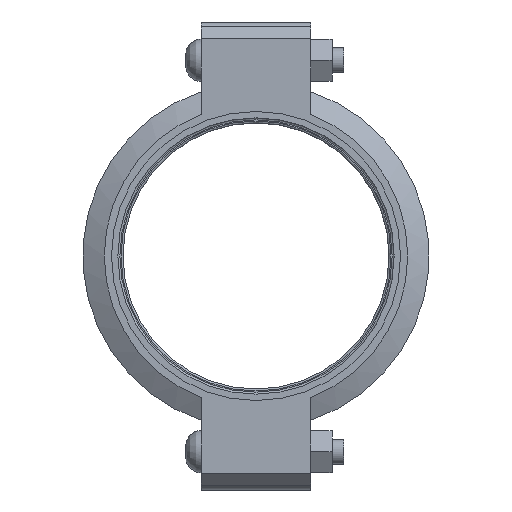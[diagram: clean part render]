
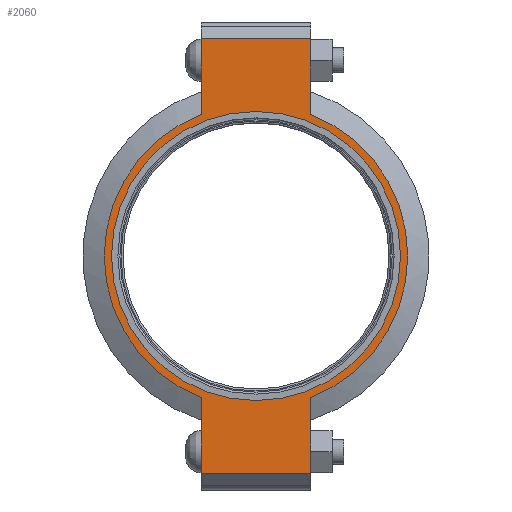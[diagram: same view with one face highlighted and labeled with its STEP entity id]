
A CAD part, left-side view. The second image highlights one B-rep face of the part: STEP entity #2060.
In plain terms, the highlighted planar face has unit normal (-1, 0, 0) as drawn and (0, 0, 1) by its records, which use the part's own axes.
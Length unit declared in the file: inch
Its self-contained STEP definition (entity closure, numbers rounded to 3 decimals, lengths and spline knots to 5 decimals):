
#166=LINE('',#3677,#265);
#174=LINE('',#3713,#273);
#181=LINE('',#3734,#280);
#190=LINE('',#3766,#289);
#191=LINE('',#3770,#290);
#192=LINE('',#3772,#291);
#265=VECTOR('',#3014,0.3937);
#273=VECTOR('',#3030,0.3937);
#280=VECTOR('',#3049,0.3937);
#289=VECTOR('',#3074,0.3937);
#290=VECTOR('',#3079,0.3937);
#291=VECTOR('',#3080,0.3937);
#352=FACE_BOUND('',#626,.T.);
#399=PLANE('',#2430);
#496=FACE_OUTER_BOUND('',#625,.T.);
#625=EDGE_LOOP('',(#1787,#1788,#1789,#1790,#1791,#1792,#1793,#1794));
#626=EDGE_LOOP('',(#1795));
#777=CIRCLE('',#2372,4.3125);
#803=CIRCLE('',#2431,4.53);
#804=CIRCLE('',#2432,4.53);
#932=VERTEX_POINT('',#3493);
#975=VERTEX_POINT('',#3674);
#976=VERTEX_POINT('',#3676);
#987=VERTEX_POINT('',#3708);
#988=VERTEX_POINT('',#3712);
#995=VERTEX_POINT('',#3731);
#996=VERTEX_POINT('',#3733);
#1006=VERTEX_POINT('',#3769);
#1007=VERTEX_POINT('',#3771);
#1173=EDGE_CURVE('',#932,#932,#777,.T.);
#1234=EDGE_CURVE('',#976,#975,#166,.T.);
#1248=EDGE_CURVE('',#988,#987,#174,.T.);
#1258=EDGE_CURVE('',#996,#995,#181,.T.);
#1273=EDGE_CURVE('',#988,#975,#190,.T.);
#1274=EDGE_CURVE('',#987,#996,#803,.T.);
#1275=EDGE_CURVE('',#1006,#995,#191,.T.);
#1276=EDGE_CURVE('',#1006,#1007,#192,.T.);
#1277=EDGE_CURVE('',#1007,#976,#804,.T.);
#1787=ORIENTED_EDGE('',*,*,#1273,.F.);
#1788=ORIENTED_EDGE('',*,*,#1248,.T.);
#1789=ORIENTED_EDGE('',*,*,#1274,.T.);
#1790=ORIENTED_EDGE('',*,*,#1258,.T.);
#1791=ORIENTED_EDGE('',*,*,#1275,.F.);
#1792=ORIENTED_EDGE('',*,*,#1276,.T.);
#1793=ORIENTED_EDGE('',*,*,#1277,.T.);
#1794=ORIENTED_EDGE('',*,*,#1234,.T.);
#1795=ORIENTED_EDGE('',*,*,#1173,.T.);
#2060=ADVANCED_FACE('',(#496,#352),#399,.T.);
#2372=AXIS2_PLACEMENT_3D('',#3495,#2890,#2891);
#2430=AXIS2_PLACEMENT_3D('',#3767,#3075,#3076);
#2431=AXIS2_PLACEMENT_3D('',#3768,#3077,#3078);
#2432=AXIS2_PLACEMENT_3D('',#3773,#3081,#3082);
#2890=DIRECTION('center_axis',(0.,0.,-1.));
#2891=DIRECTION('ref_axis',(1.,0.,0.));
#3014=DIRECTION('',(1.,0.,0.));
#3030=DIRECTION('',(-1.,0.,0.));
#3049=DIRECTION('',(-1.,0.,0.));
#3074=DIRECTION('',(0.,-1.,0.));
#3075=DIRECTION('center_axis',(0.,0.,1.));
#3076=DIRECTION('ref_axis',(-1.,0.,0.));
#3077=DIRECTION('center_axis',(0.,0.,1.));
#3078=DIRECTION('ref_axis',(1.,0.,0.));
#3079=DIRECTION('',(0.,1.,0.));
#3080=DIRECTION('',(1.,0.,0.));
#3081=DIRECTION('center_axis',(0.,0.,1.));
#3082=DIRECTION('ref_axis',(1.,0.,0.));
#3493=CARTESIAN_POINT('',(-4.3125,0.,1.16));
#3495=CARTESIAN_POINT('Origin',(0.,0.,1.16));
#3674=CARTESIAN_POINT('',(6.485,-1.63,1.16));
#3676=CARTESIAN_POINT('',(4.22658,-1.63,1.16));
#3677=CARTESIAN_POINT('',(6.985,-1.63,1.16));
#3708=CARTESIAN_POINT('',(4.22658,1.63,1.16));
#3712=CARTESIAN_POINT('',(6.485,1.63,1.16));
#3713=CARTESIAN_POINT('',(-6.985,1.63,1.16));
#3731=CARTESIAN_POINT('',(-6.485,1.63,1.16));
#3733=CARTESIAN_POINT('',(-4.22658,1.63,1.16));
#3734=CARTESIAN_POINT('',(-6.985,1.63,1.16));
#3766=CARTESIAN_POINT('',(6.485,-0.815,1.16));
#3767=CARTESIAN_POINT('Origin',(0.,0.,
1.16));
#3768=CARTESIAN_POINT('Origin',(0.,0.,1.16));
#3769=CARTESIAN_POINT('',(-6.485,-1.63,1.16));
#3770=CARTESIAN_POINT('',(-6.485,0.815,1.16));
#3771=CARTESIAN_POINT('',(-4.22658,-1.63,1.16));
#3772=CARTESIAN_POINT('',(6.985,-1.63,1.16));
#3773=CARTESIAN_POINT('Origin',(0.,0.,1.16));
